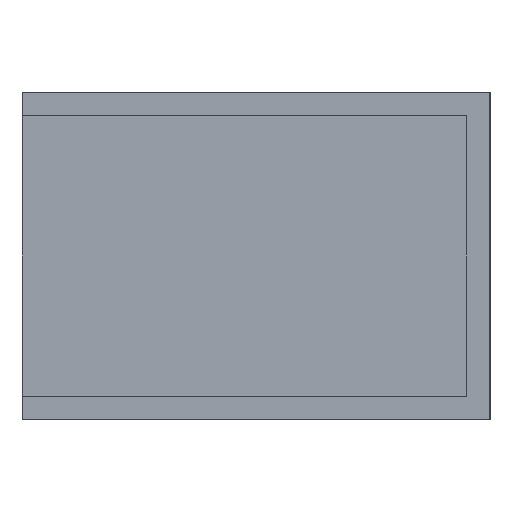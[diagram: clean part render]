
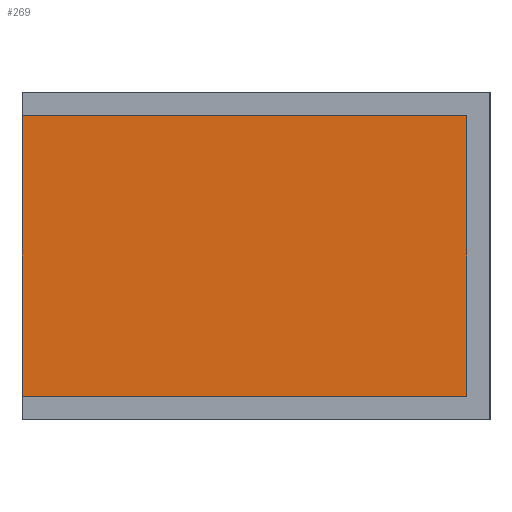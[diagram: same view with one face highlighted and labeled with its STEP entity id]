
A CAD part, left-side view. The second image highlights one B-rep face of the part: STEP entity #269.
In plain terms, the highlighted planar face has unit normal (-1, 0, 0).
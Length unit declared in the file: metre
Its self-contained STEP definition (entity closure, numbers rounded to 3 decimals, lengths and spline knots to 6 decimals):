
#52=ORIENTED_EDGE('',*,*,#114,.T.);
#53=ORIENTED_EDGE('',*,*,#113,.F.);
#54=ORIENTED_EDGE('',*,*,#97,.F.);
#55=ORIENTED_EDGE('',*,*,#108,.T.);
#97=EDGE_CURVE('',#133,#134,#157,.T.);
#108=EDGE_CURVE('',#133,#141,#168,.T.);
#113=EDGE_CURVE('',#134,#143,#173,.T.);
#114=EDGE_CURVE('',#141,#143,#174,.T.);
#133=VERTEX_POINT('',#399);
#134=VERTEX_POINT('',#401);
#141=VERTEX_POINT('',#419);
#143=VERTEX_POINT('',#428);
#157=LINE('',#400,#193);
#168=LINE('',#420,#204);
#173=LINE('',#430,#209);
#174=LINE('',#432,#210);
#193=VECTOR('',#324,1.);
#204=VECTOR('',#337,1.);
#209=VECTOR('',#348,1.);
#210=VECTOR('',#351,1.);
#225=EDGE_LOOP('',(#52,#53,#54,#55));
#241=FACE_BOUND('',#225,.T.);
#255=PLANE('',#296);
#269=ADVANCED_FACE('',(#241),#255,.F.);
#296=AXIS2_PLACEMENT_3D('',#431,#349,#350);
#324=DIRECTION('',(0.,-1.,0.));
#337=DIRECTION('',(0.,0.,-1.));
#348=DIRECTION('',(0.,0.,-1.));
#349=DIRECTION('',(1.,0.,0.));
#350=DIRECTION('',(0.,0.,-1.));
#351=DIRECTION('',(0.,-1.,0.));
#399=CARTESIAN_POINT('',(0.134994,-0.01,0.065));
#400=CARTESIAN_POINT('',(0.134994,-0.06,0.065));
#401=CARTESIAN_POINT('',(0.134994,-0.105,0.065));
#419=CARTESIAN_POINT('',(0.134994,-0.01,0.005));
#420=CARTESIAN_POINT('',(0.134994,-0.01,0.07));
#428=CARTESIAN_POINT('',(0.134994,-0.105,0.005));
#430=CARTESIAN_POINT('',(0.134994,-0.105,0.07));
#431=CARTESIAN_POINT('',(0.134994,-0.06,0.07));
#432=CARTESIAN_POINT('',(0.134994,-0.06,0.005));
